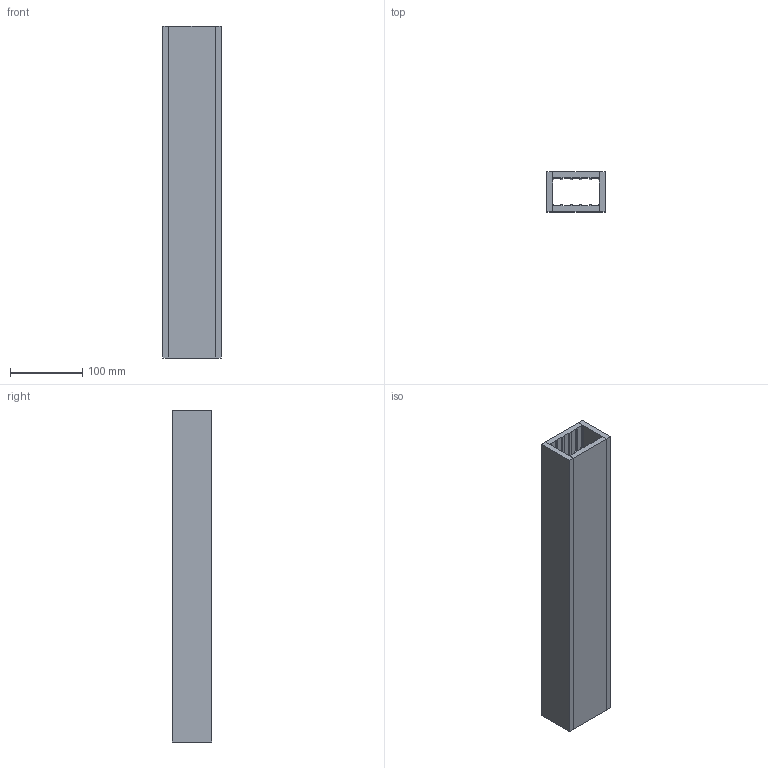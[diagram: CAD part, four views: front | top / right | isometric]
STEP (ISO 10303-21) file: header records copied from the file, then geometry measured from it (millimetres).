
FILE_DESCRIPTION (( 'STEP AP203' ), '1' );
FILE_NAME ('E1.L_9.5mm.STEP', '2021-08-02T20:58:12', ( '' ), ( '' ), 'SwSTEP 2.0', 'SolidWorks 2020', '' );
FILE_SCHEMA (( 'CONFIG_CONTROL_DESIGN' ));
Length unit declared in the file: millimetre
Products named in the file (3): E1.L_9.5mm; SSD Wind Tunnel Fixture_SIDES_E1.L; SSD Wind Tunnel Fixture_BASE_E1.L 9.5mm
Assembly tree (4 placements, depth 2):
  E1.L_9.5mm
    SSD Wind Tunnel Fixture_BASE_E1.L 9.5mm  x2
    SSD Wind Tunnel Fixture_SIDES_E1.L  x2
Bounding box: 81 x 55.25 x 460 mm (x, y, z)
Volume: 911260 mm3; surface area: 276742 mm2
Topology: 4 solids, 4 shells, 64 faces, 168 edges, 112 vertices
Faces by surface type: plane 64
Entity records: 1337 total; most frequent: CARTESIAN_POINT 179, ORIENTED_EDGE 168, DIRECTION 162, EDGE_CURVE 84, VECTOR 84, LINE 84, VERTEX_POINT 56, AXIS2_PLACEMENT_3D 39
